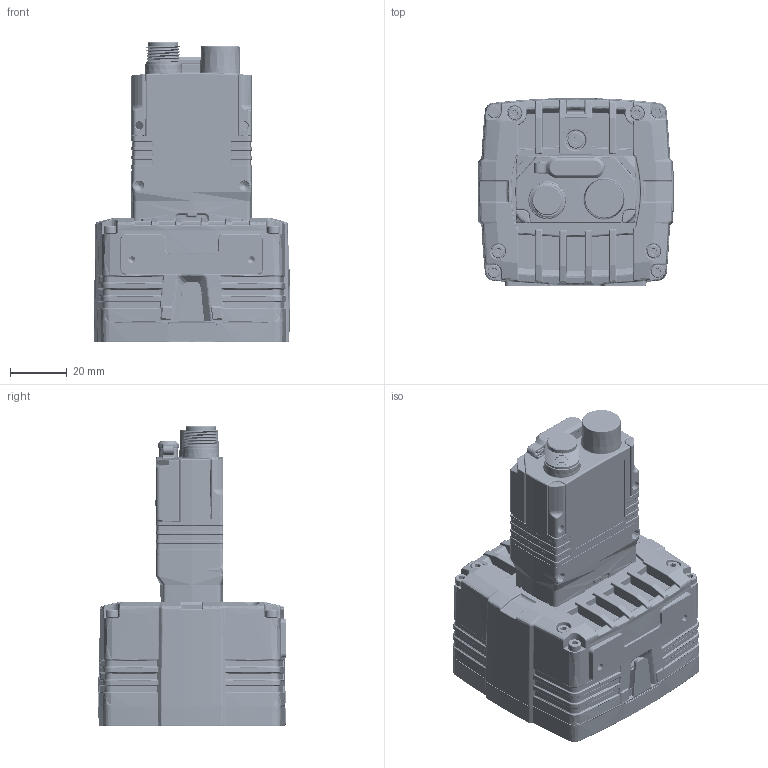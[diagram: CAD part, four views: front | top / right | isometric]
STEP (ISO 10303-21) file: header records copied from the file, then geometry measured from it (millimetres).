
FILE_DESCRIPTION (( 'STEP AP214' ), '1' );
FILE_NAME ('2800_MINI-TORCH-STRAIGHT.STEP', '2022-03-01T09:08:42', ( '' ), ( '' ), 'SwSTEP 2.0', 'SolidWorks 2021', '' );
FILE_SCHEMA (( 'AUTOMOTIVE_DESIGN' ));
Length unit declared in the file: millimetre
Products named in the file (1): 2800_MINI-TORCH-STRAIGHT
Bounding box: 68.95 x 66 x 105.5 mm (x, y, z)
Volume: 224687.6 mm3; surface area: 35417.7 mm2
Topology: 2 solids, 48 shells, 5388 faces, 13328 edges, 8041 vertices
Faces by surface type: bspline 1871, plane 1317, cylinder 1264, cone 482, torus 246, sphere 208
Entity records: 218755 total; most frequent: CARTESIAN_POINT 108338, ORIENTED_EDGE 26456, DIRECTION 18956, EDGE_CURVE 13228, VERTEX_POINT 8041, AXIS2_PLACEMENT_3D 7287, EDGE_LOOP 5535, FACE_OUTER_BOUND 5388
